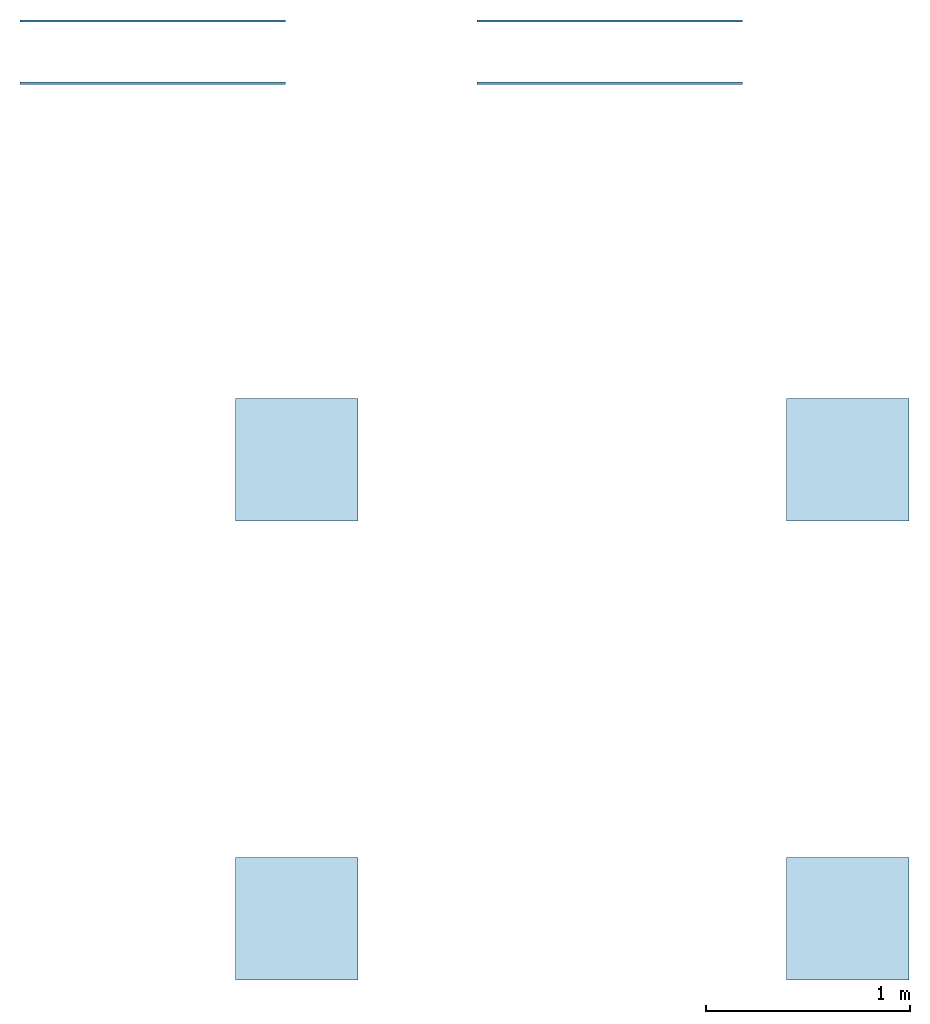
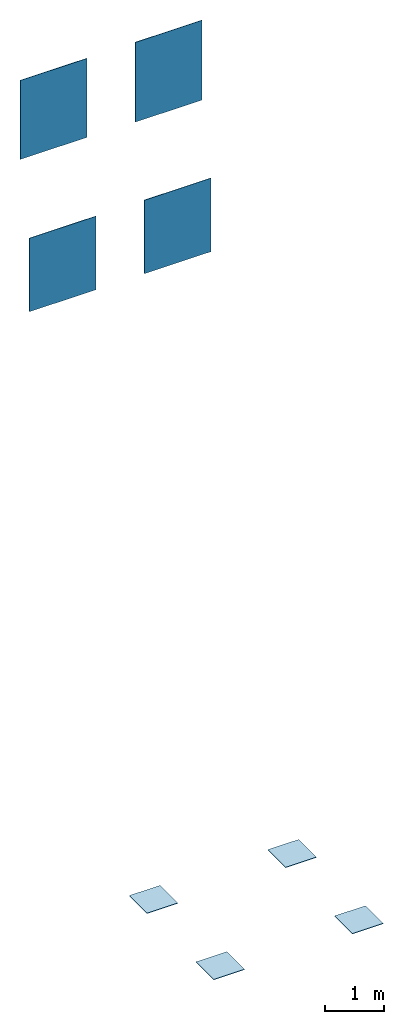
# One storey: 4 slabs, 4 walls.
"""IFC2X3 building model written with IfcOpenShell, lengths in millimetres."""

from ifc_helpers import new_model, entity, si_unit, converted_unit, derived_unit, direction, frame, frame_2d, origin, origin_2d_with_axis, place, context, subcontext, project, spatial, rectangle, extrude, material, layer, layer_set, layer_usage, type_object, element, save


model = new_model("IFC2X3")

# Units and contexts
model_context = context("Model", 3, precision=0.01, world=origin(), true_north=direction((6.12303176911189e-17, 1.0)))
body_context = subcontext(model_context, "Body", "Model", "MODEL_VIEW")
ifc_project = project(units=[si_unit("LENGTHUNIT", "METRE", prefix="MILLI"), si_unit("AREAUNIT", "SQUARE_METRE"), si_unit("VOLUMEUNIT", "CUBIC_METRE"), converted_unit("PLANEANGLEUNIT", "DEGREE", entity("IfcRatioMeasure", 0.0174532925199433), si_unit("PLANEANGLEUNIT", "RADIAN"), dimensions=[0, 0, 0, 0, 0, 0, 0]), si_unit("MASSUNIT", "GRAM", prefix="KILO"), derived_unit("MASSDENSITYUNIT", [(si_unit("MASSUNIT", "GRAM", prefix="KILO"), 1), (si_unit("LENGTHUNIT", "METRE"), -3)]), derived_unit("MOMENTOFINERTIAUNIT", [(si_unit("LENGTHUNIT", "METRE"), 4)]), si_unit("TIMEUNIT", "SECOND"), si_unit("FREQUENCYUNIT", "HERTZ"), si_unit("THERMODYNAMICTEMPERATUREUNIT", "DEGREE_CELSIUS"), derived_unit("THERMALTRANSMITTANCEUNIT", [(si_unit("MASSUNIT", "GRAM", prefix="KILO"), 1), (si_unit("THERMODYNAMICTEMPERATUREUNIT", "KELVIN"), -1), (si_unit("TIMEUNIT", "SECOND"), -3)]), derived_unit("VOLUMETRICFLOWRATEUNIT", [(si_unit("LENGTHUNIT", "METRE"), 3), (si_unit("TIMEUNIT", "SECOND"), -1)]), si_unit("ELECTRICCURRENTUNIT", "AMPERE"), si_unit("ELECTRICVOLTAGEUNIT", "VOLT"), si_unit("POWERUNIT", "WATT"), si_unit("FORCEUNIT", "NEWTON", prefix="KILO"), si_unit("ILLUMINANCEUNIT", "LUX"), si_unit("LUMINOUSFLUXUNIT", "LUMEN"), si_unit("LUMINOUSINTENSITYUNIT", "CANDELA"), derived_unit("USERDEFINED", [(si_unit("MASSUNIT", "GRAM", prefix="KILO"), -1), (si_unit("LENGTHUNIT", "METRE"), -2), (si_unit("TIMEUNIT", "SECOND"), 3), (si_unit("LUMINOUSFLUXUNIT", "LUMEN"), 1)]), derived_unit("LINEARVELOCITYUNIT", [(si_unit("LENGTHUNIT", "METRE"), 1), (si_unit("TIMEUNIT", "SECOND"), -1)]), si_unit("PRESSUREUNIT", "PASCAL"), derived_unit("USERDEFINED", [(si_unit("LENGTHUNIT", "METRE"), -2), (si_unit("MASSUNIT", "GRAM", prefix="KILO"), 1), (si_unit("TIMEUNIT", "SECOND"), -2)]), derived_unit("LINEARFORCEUNIT", [(si_unit("MASSUNIT", "GRAM", prefix="KILO"), 1), (si_unit("LENGTHUNIT", "METRE"), 1), (si_unit("TIMEUNIT", "SECOND"), -2), (si_unit("LENGTHUNIT", "METRE"), -1)]), derived_unit("PLANARFORCEUNIT", [(si_unit("MASSUNIT", "GRAM", prefix="KILO"), 1), (si_unit("LENGTHUNIT", "METRE"), 1), (si_unit("TIMEUNIT", "SECOND"), -2), (si_unit("LENGTHUNIT", "METRE"), -2)])], contexts=[model_context])

# Site, building, storey
site_placement = place(None, origin())
site = spatial("IfcSite", under=ifc_project, at=site_placement, Name="Default", CompositionType="ELEMENT")
building_placement = place(site_placement, origin())
building = spatial("IfcBuilding", under=site, at=building_placement, CompositionType="ELEMENT")
storey_placement = place(building_placement, origin())
storey = spatial("IfcBuildingStorey", under=building, at=storey_placement, Name="Level 0", CompositionType="ELEMENT", Elevation=0.0)

# Slabs
ifc_material_1 = material(Name="Frame-Carpet-60x60 LD82")
ifc_layer_1 = layer(ifc_material_1, 9.0)
ifc_material_2 = material(Name="<Unnamed>")
ifc_layer_2 = layer(ifc_material_2, 1.0)
ifc_layer_set_1 = layer_set([ifc_layer_1, ifc_layer_2], Name="Floor:Floor_Tiles_Refin-Frame-Carpet-60x60 LD82")
ifc_layer_usage_1 = layer_usage(ifc_layer_set_1, "AXIS3", "POSITIVE", 0.0)
slab_type_1 = type_object("IfcSlabType", Name="Floor:Floor_Tiles_Refin-Frame-Carpet-60x60 LD82", PredefinedType="FLOOR", material=ifc_layer_set_1)
slab_1_placement = place(storey_placement, origin())
element("IfcSlab", 1, at=slab_1_placement, inside=storey, type_object=slab_type_1, material=ifc_layer_usage_1, Name="Floor:Floor_Tiles_Refin-Frame-Carpet-60x60 LD82", ObjectType="Floor:Floor_Tiles_Refin-Frame-Carpet-60x60 LD82", PredefinedType="FLOOR", context=body_context, shape_type="SweptSolid", body=[
    extrude(rectangle(XDim=600.0, YDim=600.0, at=origin_2d_with_axis()), frame((7274.37520617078, 5988.41920639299, 0.0), z_axis=(0.0, 0.0, -1.0), x_axis=(0.0, 1.0, 0.0)), (0.0, 0.0, 1.0), 10.0),
])
ifc_material_3 = material(Name="Frame-Flower-60x60 LM22")
ifc_layer_3 = layer(ifc_material_3, 9.0)
ifc_layer_4 = layer(ifc_material_2, 1.0)
ifc_layer_set_2 = layer_set([ifc_layer_3, ifc_layer_4], Name="Floor:Floor_Tiles_Refin-Frame-Flower-60x60 LM22")
ifc_layer_usage_2 = layer_usage(ifc_layer_set_2, "AXIS3", "POSITIVE", 0.0)
slab_type_2 = type_object("IfcSlabType", Name="Floor:Floor_Tiles_Refin-Frame-Flower-60x60 LM22", PredefinedType="FLOOR", material=ifc_layer_set_2)
slab_2_placement = place(storey_placement, origin())
element("IfcSlab", 2, at=slab_2_placement, inside=storey, type_object=slab_type_2, material=ifc_layer_usage_2, Name="Floor:Floor_Tiles_Refin-Frame-Flower-60x60 LM22", ObjectType="Floor:Floor_Tiles_Refin-Frame-Flower-60x60 LM22", PredefinedType="FLOOR", context=body_context, shape_type="SweptSolid", body=[
    extrude(rectangle(XDim=600.0, YDim=600.0, at=frame_2d((0.0, 1.08002495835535e-12), x_axis=(1.0, 0.0))), frame((9974.37520617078, 5988.41920639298, 0.0), z_axis=(0.0, 0.0, -1.0), x_axis=(0.0, 1.0, 0.0)), (0.0, 0.0, 1.0), 10.0),
])
ifc_material_4 = material(Name="Frame-Geometric-60x60 LD84")
ifc_layer_5 = layer(ifc_material_4, 9.0)
ifc_layer_6 = layer(ifc_material_2, 1.0)
ifc_layer_set_3 = layer_set([ifc_layer_5, ifc_layer_6], Name="Floor:Floor_Tiles_Refin-Frame-Geometric-60x60 LD84")
ifc_layer_usage_3 = layer_usage(ifc_layer_set_3, "AXIS3", "POSITIVE", 0.0)
slab_type_3 = type_object("IfcSlabType", Name="Floor:Floor_Tiles_Refin-Frame-Geometric-60x60 LD84", PredefinedType="FLOOR", material=ifc_layer_set_3)
slab_3_placement = place(storey_placement, origin())
element("IfcSlab", 3, at=slab_3_placement, inside=storey, type_object=slab_type_3, material=ifc_layer_usage_3, Name="Floor:Floor_Tiles_Refin-Frame-Geometric-60x60 LD84", ObjectType="Floor:Floor_Tiles_Refin-Frame-Geometric-60x60 LD84", PredefinedType="FLOOR", context=body_context, shape_type="SweptSolid", body=[
    extrude(rectangle(XDim=600.0, YDim=600.0, at=origin_2d_with_axis()), frame((7274.37520617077, 3738.41920639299, 0.0), z_axis=(0.0, 0.0, -1.0), x_axis=(0.0, 1.0, 0.0)), (0.0, 0.0, 1.0), 10.0),
])
ifc_material_5 = material(Name="Frame-Majolica-60x60 LD85")
ifc_layer_7 = layer(ifc_material_5, 9.0)
ifc_layer_8 = layer(ifc_material_2, 1.0)
ifc_layer_set_4 = layer_set([ifc_layer_7, ifc_layer_8], Name="Floor:Floor_Tiles_Refin-Frame-Majolica-60x60 LD85")
ifc_layer_usage_4 = layer_usage(ifc_layer_set_4, "AXIS3", "POSITIVE", 0.0)
slab_type_4 = type_object("IfcSlabType", Name="Floor:Floor_Tiles_Refin-Frame-Majolica-60x60 LD85", PredefinedType="FLOOR", material=ifc_layer_set_4)
slab_4_placement = place(storey_placement, origin())
element("IfcSlab", 4, at=slab_4_placement, inside=storey, type_object=slab_type_4, material=ifc_layer_usage_4, Name="Floor:Floor_Tiles_Refin-Frame-Majolica-60x60 LD85", ObjectType="Floor:Floor_Tiles_Refin-Frame-Majolica-60x60 LD85", PredefinedType="FLOOR", context=body_context, shape_type="SweptSolid", body=[
    extrude(rectangle(XDim=600.0, YDim=600.0, at=frame_2d((0.0, 1.08002495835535e-12), x_axis=(1.0, 0.0))), frame((9974.37520617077, 3738.41920639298, 0.0), z_axis=(0.0, 0.0, -1.0), x_axis=(0.0, 1.0, 0.0)), (0.0, 0.0, 1.0), 10.0),
])

# Walls
ifc_layer_9 = layer(ifc_material_2, 1.0)
ifc_layer_10 = layer(ifc_material_3, 9.0)
ifc_layer_set_5 = layer_set([ifc_layer_9, ifc_layer_10], Name="Basic Wall:Wall_Tiles_Refin-Frame-Flower-60x60 LM22")
ifc_layer_usage_5 = layer_usage(ifc_layer_set_5, "AXIS2", "NEGATIVE", 5.0)
wall_type_1 = type_object("IfcWallType", Name="Basic Wall:Wall_Tiles_Refin-Frame-Flower-60x60 LM22", PredefinedType="STANDARD", material=ifc_layer_set_5)
wall_1_placement = place(storey_placement, frame((8157.37520617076, 8137.38386313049, 14387.6770443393)))
element("IfcWallStandardCase", 5, at=wall_1_placement, inside=storey, type_object=wall_type_1, material=ifc_layer_usage_5, Name="Basic Wall:Wall_Tiles_Refin-Frame-Flower-60x60 LM22", ObjectType="Basic Wall:Wall_Tiles_Refin-Frame-Flower-60x60 LM22", context=body_context, shape_type="SweptSolid", body=[
    extrude(rectangle(XDim=1300.0, YDim=9.99999999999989, at=frame_2d((650.0, 7.63833440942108e-14), x_axis=(-1.0, 0.0))), origin(), (0.0, 0.0, 1.0), 1641.74173522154),
])
ifc_layer_11 = layer(ifc_material_2, 1.0)
ifc_layer_12 = layer(ifc_material_1, 9.0)
ifc_layer_set_6 = layer_set([ifc_layer_11, ifc_layer_12], Name="Basic Wall:Wall_Tiles_Refin-Frame-Carpet-60x60 LD82")
ifc_layer_usage_6 = layer_usage(ifc_layer_set_6, "AXIS2", "NEGATIVE", 5.0)
wall_type_2 = type_object("IfcWallType", Name="Basic Wall:Wall_Tiles_Refin-Frame-Carpet-60x60 LD82", PredefinedType="STANDARD", material=ifc_layer_set_6)
wall_2_placement = place(storey_placement, frame((5917.37520617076, 8137.38386313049, 14403.726734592)))
element("IfcWallStandardCase", 6, at=wall_2_placement, inside=storey, type_object=wall_type_2, material=ifc_layer_usage_6, Name="Basic Wall:Wall_Tiles_Refin-Frame-Carpet-60x60 LD82", ObjectType="Basic Wall:Wall_Tiles_Refin-Frame-Carpet-60x60 LD82", context=body_context, shape_type="SweptSolid", body=[
    extrude(rectangle(XDim=1300.0, YDim=9.99999999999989, at=frame_2d((650.0, 7.63833440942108e-14), x_axis=(-1.0, 0.0))), origin(), (0.0, 0.0, 1.0), 1625.69204496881),
])
ifc_layer_13 = layer(ifc_material_2, 1.0)
ifc_layer_14 = layer(ifc_material_4, 9.0)
ifc_layer_set_7 = layer_set([ifc_layer_13, ifc_layer_14], Name="Basic Wall:Wall_Tiles_Refin-Frame-Geometric-60x60 LD84")
ifc_layer_usage_7 = layer_usage(ifc_layer_set_7, "AXIS2", "NEGATIVE", 5.0)
wall_type_3 = type_object("IfcWallType", Name="Basic Wall:Wall_Tiles_Refin-Frame-Geometric-60x60 LD84", PredefinedType="STANDARD", material=ifc_layer_set_7)
wall_3_placement = place(storey_placement, frame((5917.37520617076, 7832.38386313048, 11452.5436262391)))
element("IfcWallStandardCase", 7, at=wall_3_placement, inside=storey, type_object=wall_type_3, material=ifc_layer_usage_7, Name="Basic Wall:Wall_Tiles_Refin-Frame-Geometric-60x60 LD84", ObjectType="Basic Wall:Wall_Tiles_Refin-Frame-Geometric-60x60 LD84", context=body_context, shape_type="SweptSolid", body=[
    extrude(rectangle(XDim=1300.0, YDim=9.99999999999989, at=frame_2d((650.0, 0.0), x_axis=(-1.0, 0.0))), origin(), (0.0, 0.0, 1.0), 1513.19855655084),
])
ifc_layer_15 = layer(ifc_material_2, 1.0)
ifc_layer_16 = layer(ifc_material_5, 9.0)
ifc_layer_set_8 = layer_set([ifc_layer_15, ifc_layer_16], Name="Basic Wall:Wall_Tiles_Refin-Frame-Majolica-60x60 LD85")
ifc_layer_usage_8 = layer_usage(ifc_layer_set_8, "AXIS2", "NEGATIVE", 5.0)
wall_type_4 = type_object("IfcWallType", Name="Basic Wall:Wall_Tiles_Refin-Frame-Majolica-60x60 LD85", PredefinedType="STANDARD", material=ifc_layer_set_8)
wall_4_placement = place(storey_placement, frame((8157.37520617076, 7832.38386313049, 11452.5436262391)))
element("IfcWallStandardCase", 8, at=wall_4_placement, inside=storey, type_object=wall_type_4, material=ifc_layer_usage_8, Name="Basic Wall:Wall_Tiles_Refin-Frame-Majolica-60x60 LD85", ObjectType="Basic Wall:Wall_Tiles_Refin-Frame-Majolica-60x60 LD85", context=body_context, shape_type="SweptSolid", body=[
    extrude(rectangle(XDim=1300.0, YDim=9.99999999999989, at=frame_2d((650.0, 0.0), x_axis=(-1.0, 0.0))), origin(), (0.0, 0.0, 1.0), 1513.19855655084),
])

save(model, "model.ifc")
